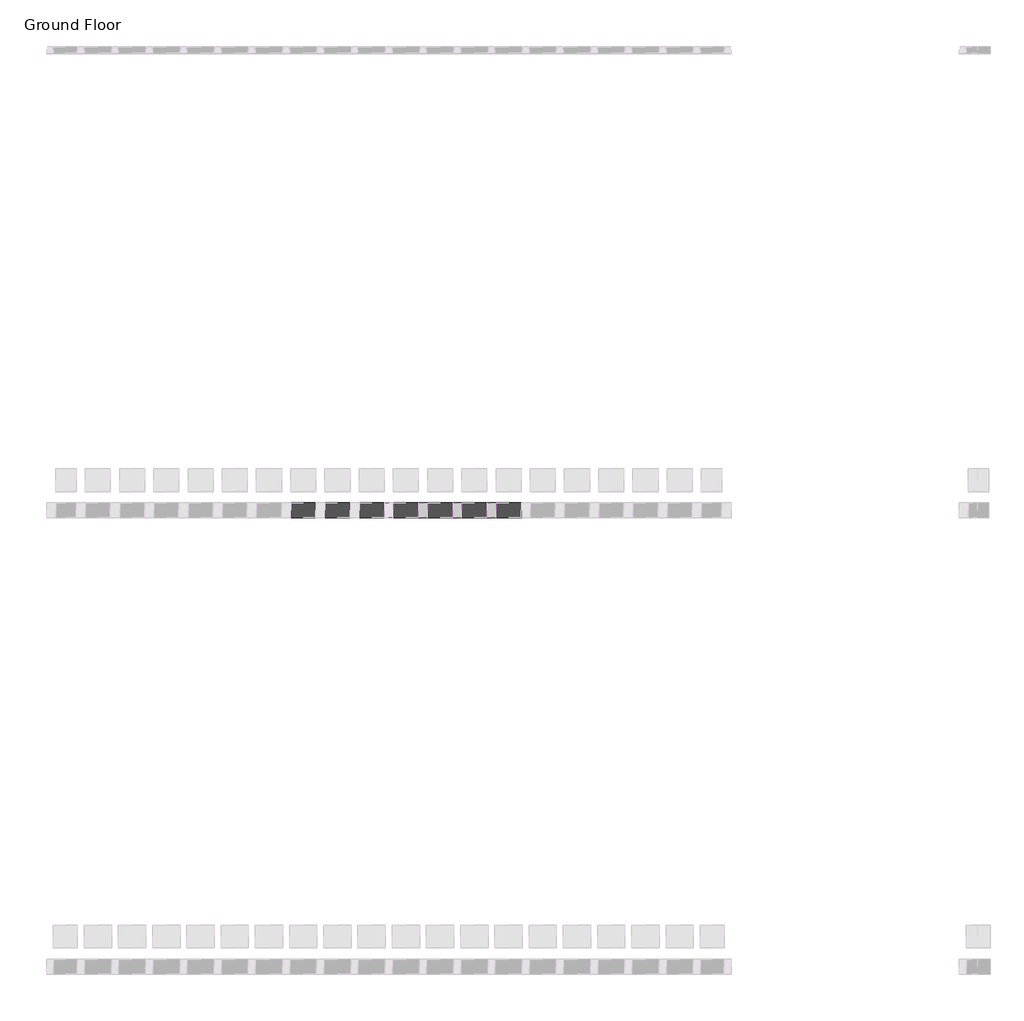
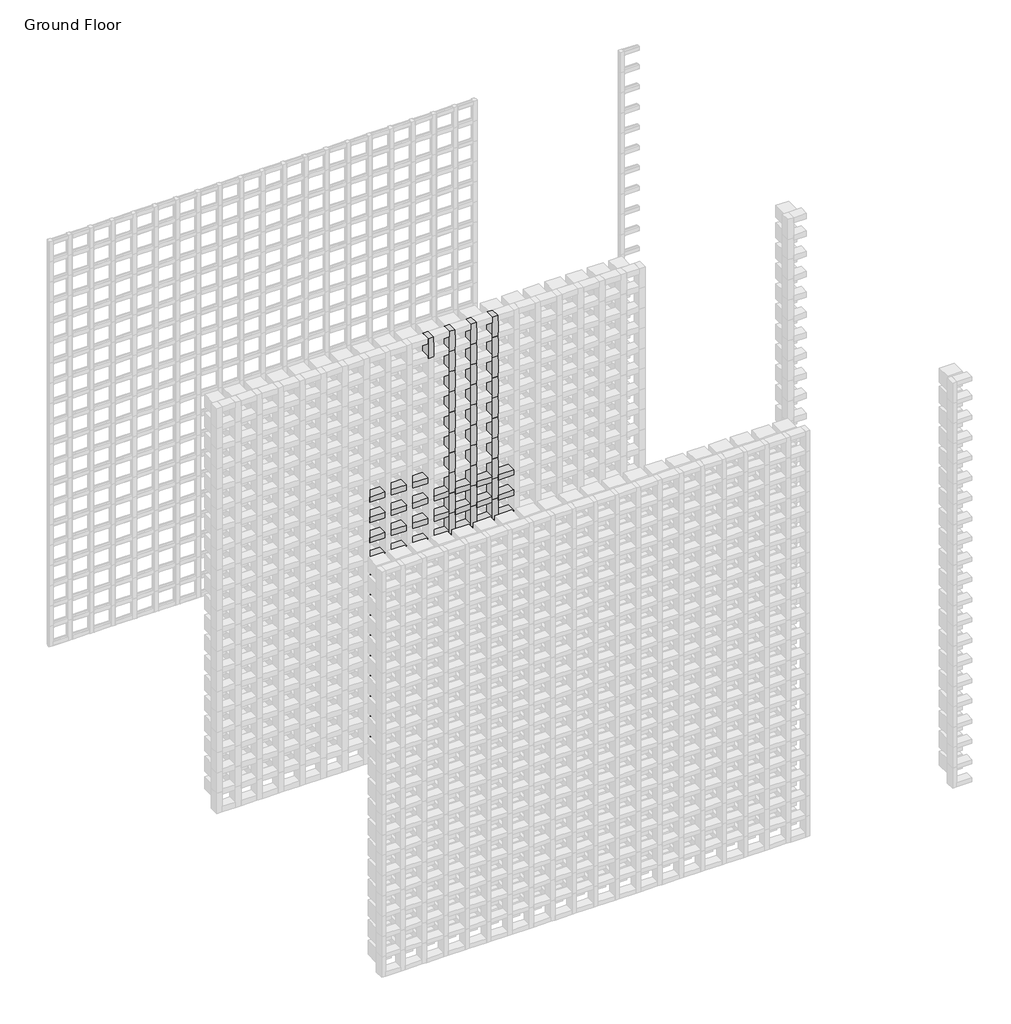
# One storey, part 131 of 350: 145 members.
"""IFC4 building model written with IfcOpenShell, lengths in millimetres."""

from ifc_helpers import new_model, si_unit, origin, place, context, project, spatial, transform, mapped, element, save
from components import rectangular_mullion_655930e9, rectangular_mullion_97e353d0

model = new_model("IFC4")

# Units and contexts
model_context = context("Model", 3, world=origin())
ifc_project = project(units=[si_unit("LENGTHUNIT", "METRE", prefix="MILLI")], contexts=[model_context])

# Site, building, storey
site = spatial("IfcSite", under=ifc_project)
building = spatial("IfcBuilding", under=site)
storey = spatial("IfcBuildingStorey", under=building, Name="Ground Floor", Elevation=0.0)

# Members
placement = place(None, origin())
rectangular_mullion_shape = rectangular_mullion_655930e9(model_context)
element("IfcMember", 1, ObjectType="Rectangular Mullion : Batten_Timber_Modinex_Austratus_Grid_Fascia_40x65_Hemlock", at=placement, inside=storey, context=model_context, shape_type="MappedRepresentation", body=[
    mapped(rectangular_mullion_shape, transform((11566.4361642, 40968.2978302, 150.0), x_axis=(1.0, 0.0, 0.0), y_axis=(0.0, -1.0, 0.0), z_axis=(0.0, 0.0, -1.0))),
])
element("IfcMember", 2, ObjectType="Rectangular Mullion : Batten_Timber_Modinex_Austratus_Grid_Fascia_40x65_Hemlock", at=placement, inside=storey, context=model_context, shape_type="MappedRepresentation", body=[
    mapped(rectangular_mullion_shape, transform((11566.4361642, 40968.2978302, 300.0), x_axis=(1.0, 0.0, 0.0), y_axis=(0.0, -1.0, 0.0), z_axis=(0.0, 0.0, -1.0))),
])
element("IfcMember", 3, ObjectType="Rectangular Mullion : Batten_Timber_Modinex_Austratus_Grid_Fascia_40x65_Hemlock", at=placement, inside=storey, context=model_context, shape_type="MappedRepresentation", body=[
    mapped(rectangular_mullion_shape, transform((11566.4361642, 40968.2978302, 450.0), x_axis=(1.0, 0.0, 0.0), y_axis=(0.0, -1.0, 0.0), z_axis=(0.0, 0.0, -1.0))),
])
element("IfcMember", 4, ObjectType="Rectangular Mullion : Batten_Timber_Modinex_Austratus_Grid_Fascia_40x65_Hemlock", at=placement, inside=storey, context=model_context, shape_type="MappedRepresentation", body=[
    mapped(rectangular_mullion_shape, transform((11566.4361642, 40968.2978302, 600.0), x_axis=(1.0, 0.0, 0.0), y_axis=(0.0, -1.0, 0.0), z_axis=(0.0, 0.0, -1.0))),
])
element("IfcMember", 5, ObjectType="Rectangular Mullion : Batten_Timber_Modinex_Austratus_Grid_Fascia_40x65_Hemlock", at=placement, inside=storey, context=model_context, shape_type="MappedRepresentation", body=[
    mapped(rectangular_mullion_shape, transform((11566.4361642, 40968.2978302, 750.0), x_axis=(1.0, 0.0, 0.0), y_axis=(0.0, -1.0, 0.0), z_axis=(0.0, 0.0, -1.0))),
])
element("IfcMember", 6, ObjectType="Rectangular Mullion : Batten_Timber_Modinex_Austratus_Grid_Fascia_40x65_Hemlock", at=placement, inside=storey, context=model_context, shape_type="MappedRepresentation", body=[
    mapped(rectangular_mullion_shape, transform((11566.4361642, 40968.2978302, 900.0), x_axis=(1.0, 0.0, 0.0), y_axis=(0.0, -1.0, 0.0), z_axis=(0.0, 0.0, -1.0))),
])
element("IfcMember", 7, ObjectType="Rectangular Mullion : Batten_Timber_Modinex_Austratus_Grid_Fascia_40x65_Hemlock", at=placement, inside=storey, context=model_context, shape_type="MappedRepresentation", body=[
    mapped(rectangular_mullion_shape, transform((11566.4361642, 40968.2978302, 1050.0), x_axis=(1.0, 0.0, 0.0), y_axis=(0.0, -1.0, 0.0), z_axis=(0.0, 0.0, -1.0))),
])
element("IfcMember", 8, ObjectType="Rectangular Mullion : Batten_Timber_Modinex_Austratus_Grid_Fascia_40x65_Hemlock", at=placement, inside=storey, context=model_context, shape_type="MappedRepresentation", body=[
    mapped(rectangular_mullion_shape, transform((11566.4361642, 40968.2978302, 1200.0), x_axis=(1.0, 0.0, 0.0), y_axis=(0.0, -1.0, 0.0), z_axis=(0.0, 0.0, -1.0))),
])
element("IfcMember", 9, ObjectType="Rectangular Mullion : Batten_Timber_Modinex_Austratus_Grid_Fascia_40x65_Hemlock", at=placement, inside=storey, context=model_context, shape_type="MappedRepresentation", body=[
    mapped(rectangular_mullion_shape, transform((11566.4361642, 40968.2978302, 1350.0), x_axis=(1.0, 0.0, 0.0), y_axis=(0.0, -1.0, 0.0), z_axis=(0.0, 0.0, -1.0))),
])
element("IfcMember", 10, ObjectType="Rectangular Mullion : Batten_Timber_Modinex_Austratus_Grid_Fascia_40x65_Hemlock", at=placement, inside=storey, context=model_context, shape_type="MappedRepresentation", body=[
    mapped(rectangular_mullion_shape, transform((11566.4361642, 40968.2978302, 1500.0), x_axis=(1.0, 0.0, 0.0), y_axis=(0.0, -1.0, 0.0), z_axis=(0.0, 0.0, -1.0))),
])
element("IfcMember", 11, ObjectType="Rectangular Mullion : Batten_Timber_Modinex_Austratus_Grid_Fascia_40x65_Hemlock", at=placement, inside=storey, context=model_context, shape_type="MappedRepresentation", body=[
    mapped(rectangular_mullion_shape, transform((11566.4361642, 40968.2978302, 1650.0), x_axis=(1.0, 0.0, 0.0), y_axis=(0.0, -1.0, 0.0), z_axis=(0.0, 0.0, -1.0))),
])
element("IfcMember", 12, ObjectType="Rectangular Mullion : Batten_Timber_Modinex_Austratus_Grid_Fascia_40x65_Hemlock", at=placement, inside=storey, context=model_context, shape_type="MappedRepresentation", body=[
    mapped(rectangular_mullion_shape, transform((11566.4361642, 40968.2978302, 1800.0), x_axis=(1.0, 0.0, 0.0), y_axis=(0.0, -1.0, 0.0), z_axis=(0.0, 0.0, -1.0))),
])
element("IfcMember", 13, ObjectType="Rectangular Mullion : Batten_Timber_Modinex_Austratus_Grid_Fascia_40x65_Hemlock", at=placement, inside=storey, context=model_context, shape_type="MappedRepresentation", body=[
    mapped(rectangular_mullion_shape, transform((11566.4361642, 40968.2978302, 1950.0), x_axis=(1.0, 0.0, 0.0), y_axis=(0.0, -1.0, 0.0), z_axis=(0.0, 0.0, -1.0))),
])
element("IfcMember", 14, ObjectType="Rectangular Mullion : Batten_Timber_Modinex_Austratus_Grid_Fascia_40x65_Hemlock", at=placement, inside=storey, context=model_context, shape_type="MappedRepresentation", body=[
    mapped(rectangular_mullion_shape, transform((11566.4361642, 40968.2978302, 2100.0), x_axis=(1.0, 0.0, 0.0), y_axis=(0.0, -1.0, 0.0), z_axis=(0.0, 0.0, -1.0))),
])
element("IfcMember", 15, ObjectType="Rectangular Mullion : Batten_Timber_Modinex_Austratus_Grid_Fascia_40x65_Hemlock", at=placement, inside=storey, context=model_context, shape_type="MappedRepresentation", body=[
    mapped(rectangular_mullion_shape, transform((11566.4361642, 40968.2978302, 2250.0), x_axis=(1.0, 0.0, 0.0), y_axis=(0.0, -1.0, 0.0), z_axis=(0.0, 0.0, -1.0))),
])
element("IfcMember", 16, ObjectType="Rectangular Mullion : Batten_Timber_Modinex_Austratus_Grid_Fascia_40x65_Hemlock", at=placement, inside=storey, context=model_context, shape_type="MappedRepresentation", body=[
    mapped(rectangular_mullion_shape, transform((11566.4361642, 40968.2978302, 2400.0), x_axis=(1.0, 0.0, 0.0), y_axis=(0.0, -1.0, 0.0), z_axis=(0.0, 0.0, -1.0))),
])
element("IfcMember", 17, ObjectType="Rectangular Mullion : Batten_Timber_Modinex_Austratus_Grid_Fascia_40x65_Hemlock", at=placement, inside=storey, context=model_context, shape_type="MappedRepresentation", body=[
    mapped(rectangular_mullion_shape, transform((11566.4361642, 40968.2978302, 2550.0), x_axis=(1.0, 0.0, 0.0), y_axis=(0.0, -1.0, 0.0), z_axis=(0.0, 0.0, -1.0))),
])
element("IfcMember", 18, ObjectType="Rectangular Mullion : Batten_Timber_Modinex_Austratus_Grid_Fascia_40x65_Hemlock", at=placement, inside=storey, context=model_context, shape_type="MappedRepresentation", body=[
    mapped(rectangular_mullion_shape, transform((11566.4361642, 40968.2978302, 2700.0), x_axis=(1.0, 0.0, 0.0), y_axis=(0.0, -1.0, 0.0), z_axis=(0.0, 0.0, -1.0))),
])
element("IfcMember", 19, ObjectType="Rectangular Mullion : Batten_Timber_Modinex_Austratus_Grid_Fascia_40x65_Hemlock", at=placement, inside=storey, context=model_context, shape_type="MappedRepresentation", body=[
    mapped(rectangular_mullion_shape, transform((11716.4361642, 40968.2978302, 150.0), x_axis=(1.0, 0.0, 0.0), y_axis=(0.0, -1.0, 0.0), z_axis=(0.0, 0.0, -1.0))),
])
element("IfcMember", 20, ObjectType="Rectangular Mullion : Batten_Timber_Modinex_Austratus_Grid_Fascia_40x65_Hemlock", at=placement, inside=storey, context=model_context, shape_type="MappedRepresentation", body=[
    mapped(rectangular_mullion_shape, transform((11716.4361642, 40968.2978302, 300.0), x_axis=(1.0, 0.0, 0.0), y_axis=(0.0, -1.0, 0.0), z_axis=(0.0, 0.0, -1.0))),
])
element("IfcMember", 21, ObjectType="Rectangular Mullion : Batten_Timber_Modinex_Austratus_Grid_Fascia_40x65_Hemlock", at=placement, inside=storey, context=model_context, shape_type="MappedRepresentation", body=[
    mapped(rectangular_mullion_shape, transform((11716.4361642, 40968.2978302, 450.0), x_axis=(1.0, 0.0, 0.0), y_axis=(0.0, -1.0, 0.0), z_axis=(0.0, 0.0, -1.0))),
])
element("IfcMember", 22, ObjectType="Rectangular Mullion : Batten_Timber_Modinex_Austratus_Grid_Fascia_40x65_Hemlock", at=placement, inside=storey, context=model_context, shape_type="MappedRepresentation", body=[
    mapped(rectangular_mullion_shape, transform((11716.4361642, 40968.2978302, 600.0), x_axis=(1.0, 0.0, 0.0), y_axis=(0.0, -1.0, 0.0), z_axis=(0.0, 0.0, -1.0))),
])
element("IfcMember", 23, ObjectType="Rectangular Mullion : Batten_Timber_Modinex_Austratus_Grid_Fascia_40x65_Hemlock", at=placement, inside=storey, context=model_context, shape_type="MappedRepresentation", body=[
    mapped(rectangular_mullion_shape, transform((11716.4361642, 40968.2978302, 750.0), x_axis=(1.0, 0.0, 0.0), y_axis=(0.0, -1.0, 0.0), z_axis=(0.0, 0.0, -1.0))),
])
element("IfcMember", 24, ObjectType="Rectangular Mullion : Batten_Timber_Modinex_Austratus_Grid_Fascia_40x65_Hemlock", at=placement, inside=storey, context=model_context, shape_type="MappedRepresentation", body=[
    mapped(rectangular_mullion_shape, transform((11716.4361642, 40968.2978302, 900.0), x_axis=(1.0, 0.0, 0.0), y_axis=(0.0, -1.0, 0.0), z_axis=(0.0, 0.0, -1.0))),
])
element("IfcMember", 25, ObjectType="Rectangular Mullion : Batten_Timber_Modinex_Austratus_Grid_Fascia_40x65_Hemlock", at=placement, inside=storey, context=model_context, shape_type="MappedRepresentation", body=[
    mapped(rectangular_mullion_shape, transform((11716.4361642, 40968.2978302, 1050.0), x_axis=(1.0, 0.0, 0.0), y_axis=(0.0, -1.0, 0.0), z_axis=(0.0, 0.0, -1.0))),
])
element("IfcMember", 26, ObjectType="Rectangular Mullion : Batten_Timber_Modinex_Austratus_Grid_Fascia_40x65_Hemlock", at=placement, inside=storey, context=model_context, shape_type="MappedRepresentation", body=[
    mapped(rectangular_mullion_shape, transform((11716.4361642, 40968.2978302, 1200.0), x_axis=(1.0, 0.0, 0.0), y_axis=(0.0, -1.0, 0.0), z_axis=(0.0, 0.0, -1.0))),
])
element("IfcMember", 27, ObjectType="Rectangular Mullion : Batten_Timber_Modinex_Austratus_Grid_Fascia_40x65_Hemlock", at=placement, inside=storey, context=model_context, shape_type="MappedRepresentation", body=[
    mapped(rectangular_mullion_shape, transform((11716.4361642, 40968.2978302, 1350.0), x_axis=(1.0, 0.0, 0.0), y_axis=(0.0, -1.0, 0.0), z_axis=(0.0, 0.0, -1.0))),
])
element("IfcMember", 28, ObjectType="Rectangular Mullion : Batten_Timber_Modinex_Austratus_Grid_Fascia_40x65_Hemlock", at=placement, inside=storey, context=model_context, shape_type="MappedRepresentation", body=[
    mapped(rectangular_mullion_shape, transform((11716.4361642, 40968.2978302, 1500.0), x_axis=(1.0, 0.0, 0.0), y_axis=(0.0, -1.0, 0.0), z_axis=(0.0, 0.0, -1.0))),
])
element("IfcMember", 29, ObjectType="Rectangular Mullion : Batten_Timber_Modinex_Austratus_Grid_Fascia_40x65_Hemlock", at=placement, inside=storey, context=model_context, shape_type="MappedRepresentation", body=[
    mapped(rectangular_mullion_shape, transform((11716.4361642, 40968.2978302, 1650.0), x_axis=(1.0, 0.0, 0.0), y_axis=(0.0, -1.0, 0.0), z_axis=(0.0, 0.0, -1.0))),
])
element("IfcMember", 30, ObjectType="Rectangular Mullion : Batten_Timber_Modinex_Austratus_Grid_Fascia_40x65_Hemlock", at=placement, inside=storey, context=model_context, shape_type="MappedRepresentation", body=[
    mapped(rectangular_mullion_shape, transform((11716.4361642, 40968.2978302, 1800.0), x_axis=(1.0, 0.0, 0.0), y_axis=(0.0, -1.0, 0.0), z_axis=(0.0, 0.0, -1.0))),
])
element("IfcMember", 31, ObjectType="Rectangular Mullion : Batten_Timber_Modinex_Austratus_Grid_Fascia_40x65_Hemlock", at=placement, inside=storey, context=model_context, shape_type="MappedRepresentation", body=[
    mapped(rectangular_mullion_shape, transform((11716.4361642, 40968.2978302, 1950.0), x_axis=(1.0, 0.0, 0.0), y_axis=(0.0, -1.0, 0.0), z_axis=(0.0, 0.0, -1.0))),
])
element("IfcMember", 32, ObjectType="Rectangular Mullion : Batten_Timber_Modinex_Austratus_Grid_Fascia_40x65_Hemlock", at=placement, inside=storey, context=model_context, shape_type="MappedRepresentation", body=[
    mapped(rectangular_mullion_shape, transform((11716.4361642, 40968.2978302, 2100.0), x_axis=(1.0, 0.0, 0.0), y_axis=(0.0, -1.0, 0.0), z_axis=(0.0, 0.0, -1.0))),
])
element("IfcMember", 33, ObjectType="Rectangular Mullion : Batten_Timber_Modinex_Austratus_Grid_Fascia_40x65_Hemlock", at=placement, inside=storey, context=model_context, shape_type="MappedRepresentation", body=[
    mapped(rectangular_mullion_shape, transform((11716.4361642, 40968.2978302, 2250.0), x_axis=(1.0, 0.0, 0.0), y_axis=(0.0, -1.0, 0.0), z_axis=(0.0, 0.0, -1.0))),
])
element("IfcMember", 34, ObjectType="Rectangular Mullion : Batten_Timber_Modinex_Austratus_Grid_Fascia_40x65_Hemlock", at=placement, inside=storey, context=model_context, shape_type="MappedRepresentation", body=[
    mapped(rectangular_mullion_shape, transform((11716.4361642, 40968.2978302, 2400.0), x_axis=(1.0, 0.0, 0.0), y_axis=(0.0, -1.0, 0.0), z_axis=(0.0, 0.0, -1.0))),
])
element("IfcMember", 35, ObjectType="Rectangular Mullion : Batten_Timber_Modinex_Austratus_Grid_Fascia_40x65_Hemlock", at=placement, inside=storey, context=model_context, shape_type="MappedRepresentation", body=[
    mapped(rectangular_mullion_shape, transform((11716.4361642, 40968.2978302, 2550.0), x_axis=(1.0, 0.0, 0.0), y_axis=(0.0, -1.0, 0.0), z_axis=(0.0, 0.0, -1.0))),
])
element("IfcMember", 36, ObjectType="Rectangular Mullion : Batten_Timber_Modinex_Austratus_Grid_Fascia_40x65_Hemlock", at=placement, inside=storey, context=model_context, shape_type="MappedRepresentation", body=[
    mapped(rectangular_mullion_shape, transform((11716.4361642, 40968.2978302, 2700.0), x_axis=(1.0, 0.0, 0.0), y_axis=(0.0, -1.0, 0.0), z_axis=(0.0, 0.0, -1.0))),
])
element("IfcMember", 37, ObjectType="Rectangular Mullion : Batten_Timber_Modinex_Austratus_Grid_Fascia_40x65_Hemlock", at=placement, inside=storey, context=model_context, shape_type="MappedRepresentation", body=[
    mapped(rectangular_mullion_shape, transform((11866.4361642, 40968.2978302, 150.0), x_axis=(1.0, 0.0, 0.0), y_axis=(0.0, -1.0, 0.0), z_axis=(0.0, 0.0, -1.0))),
])
element("IfcMember", 38, ObjectType="Rectangular Mullion : Batten_Timber_Modinex_Austratus_Grid_Fascia_40x65_Hemlock", at=placement, inside=storey, context=model_context, shape_type="MappedRepresentation", body=[
    mapped(rectangular_mullion_shape, transform((11866.4361642, 40968.2978302, 300.0), x_axis=(1.0, 0.0, 0.0), y_axis=(0.0, -1.0, 0.0), z_axis=(0.0, 0.0, -1.0))),
])
element("IfcMember", 39, ObjectType="Rectangular Mullion : Batten_Timber_Modinex_Austratus_Grid_Fascia_40x65_Hemlock", at=placement, inside=storey, context=model_context, shape_type="MappedRepresentation", body=[
    mapped(rectangular_mullion_shape, transform((11866.4361642, 40968.2978302, 450.0), x_axis=(1.0, 0.0, 0.0), y_axis=(0.0, -1.0, 0.0), z_axis=(0.0, 0.0, -1.0))),
])
element("IfcMember", 40, ObjectType="Rectangular Mullion : Batten_Timber_Modinex_Austratus_Grid_Fascia_40x65_Hemlock", at=placement, inside=storey, context=model_context, shape_type="MappedRepresentation", body=[
    mapped(rectangular_mullion_shape, transform((11866.4361642, 40968.2978302, 600.0), x_axis=(1.0, 0.0, 0.0), y_axis=(0.0, -1.0, 0.0), z_axis=(0.0, 0.0, -1.0))),
])
element("IfcMember", 41, ObjectType="Rectangular Mullion : Batten_Timber_Modinex_Austratus_Grid_Fascia_40x65_Hemlock", at=placement, inside=storey, context=model_context, shape_type="MappedRepresentation", body=[
    mapped(rectangular_mullion_shape, transform((11866.4361642, 40968.2978302, 750.0), x_axis=(1.0, 0.0, 0.0), y_axis=(0.0, -1.0, 0.0), z_axis=(0.0, 0.0, -1.0))),
])
element("IfcMember", 42, ObjectType="Rectangular Mullion : Batten_Timber_Modinex_Austratus_Grid_Fascia_40x65_Hemlock", at=placement, inside=storey, context=model_context, shape_type="MappedRepresentation", body=[
    mapped(rectangular_mullion_shape, transform((11866.4361642, 40968.2978302, 900.0), x_axis=(1.0, 0.0, 0.0), y_axis=(0.0, -1.0, 0.0), z_axis=(0.0, 0.0, -1.0))),
])
element("IfcMember", 43, ObjectType="Rectangular Mullion : Batten_Timber_Modinex_Austratus_Grid_Fascia_40x65_Hemlock", at=placement, inside=storey, context=model_context, shape_type="MappedRepresentation", body=[
    mapped(rectangular_mullion_shape, transform((11866.4361642, 40968.2978302, 1050.0), x_axis=(1.0, 0.0, 0.0), y_axis=(0.0, -1.0, 0.0), z_axis=(0.0, 0.0, -1.0))),
])
element("IfcMember", 44, ObjectType="Rectangular Mullion : Batten_Timber_Modinex_Austratus_Grid_Fascia_40x65_Hemlock", at=placement, inside=storey, context=model_context, shape_type="MappedRepresentation", body=[
    mapped(rectangular_mullion_shape, transform((11866.4361642, 40968.2978302, 1200.0), x_axis=(1.0, 0.0, 0.0), y_axis=(0.0, -1.0, 0.0), z_axis=(0.0, 0.0, -1.0))),
])
element("IfcMember", 45, ObjectType="Rectangular Mullion : Batten_Timber_Modinex_Austratus_Grid_Fascia_40x65_Hemlock", at=placement, inside=storey, context=model_context, shape_type="MappedRepresentation", body=[
    mapped(rectangular_mullion_shape, transform((11866.4361642, 40968.2978302, 1350.0), x_axis=(1.0, 0.0, 0.0), y_axis=(0.0, -1.0, 0.0), z_axis=(0.0, 0.0, -1.0))),
])
element("IfcMember", 46, ObjectType="Rectangular Mullion : Batten_Timber_Modinex_Austratus_Grid_Fascia_40x65_Hemlock", at=placement, inside=storey, context=model_context, shape_type="MappedRepresentation", body=[
    mapped(rectangular_mullion_shape, transform((11866.4361642, 40968.2978302, 1500.0), x_axis=(1.0, 0.0, 0.0), y_axis=(0.0, -1.0, 0.0), z_axis=(0.0, 0.0, -1.0))),
])
element("IfcMember", 47, ObjectType="Rectangular Mullion : Batten_Timber_Modinex_Austratus_Grid_Fascia_40x65_Hemlock", at=placement, inside=storey, context=model_context, shape_type="MappedRepresentation", body=[
    mapped(rectangular_mullion_shape, transform((11866.4361642, 40968.2978302, 1650.0), x_axis=(1.0, 0.0, 0.0), y_axis=(0.0, -1.0, 0.0), z_axis=(0.0, 0.0, -1.0))),
])
element("IfcMember", 48, ObjectType="Rectangular Mullion : Batten_Timber_Modinex_Austratus_Grid_Fascia_40x65_Hemlock", at=placement, inside=storey, context=model_context, shape_type="MappedRepresentation", body=[
    mapped(rectangular_mullion_shape, transform((11866.4361642, 40968.2978302, 1800.0), x_axis=(1.0, 0.0, 0.0), y_axis=(0.0, -1.0, 0.0), z_axis=(0.0, 0.0, -1.0))),
])
element("IfcMember", 49, ObjectType="Rectangular Mullion : Batten_Timber_Modinex_Austratus_Grid_Fascia_40x65_Hemlock", at=placement, inside=storey, context=model_context, shape_type="MappedRepresentation", body=[
    mapped(rectangular_mullion_shape, transform((11866.4361642, 40968.2978302, 1950.0), x_axis=(1.0, 0.0, 0.0), y_axis=(0.0, -1.0, 0.0), z_axis=(0.0, 0.0, -1.0))),
])
element("IfcMember", 50, ObjectType="Rectangular Mullion : Batten_Timber_Modinex_Austratus_Grid_Fascia_40x65_Hemlock", at=placement, inside=storey, context=model_context, shape_type="MappedRepresentation", body=[
    mapped(rectangular_mullion_shape, transform((11866.4361642, 40968.2978302, 2100.0), x_axis=(1.0, 0.0, 0.0), y_axis=(0.0, -1.0, 0.0), z_axis=(0.0, 0.0, -1.0))),
])
element("IfcMember", 51, ObjectType="Rectangular Mullion : Batten_Timber_Modinex_Austratus_Grid_Fascia_40x65_Hemlock", at=placement, inside=storey, context=model_context, shape_type="MappedRepresentation", body=[
    mapped(rectangular_mullion_shape, transform((11866.4361642, 40968.2978302, 2250.0), x_axis=(1.0, 0.0, 0.0), y_axis=(0.0, -1.0, 0.0), z_axis=(0.0, 0.0, -1.0))),
])
element("IfcMember", 52, ObjectType="Rectangular Mullion : Batten_Timber_Modinex_Austratus_Grid_Fascia_40x65_Hemlock", at=placement, inside=storey, context=model_context, shape_type="MappedRepresentation", body=[
    mapped(rectangular_mullion_shape, transform((11866.4361642, 40968.2978302, 2400.0), x_axis=(1.0, 0.0, 0.0), y_axis=(0.0, -1.0, 0.0), z_axis=(0.0, 0.0, -1.0))),
])
element("IfcMember", 53, ObjectType="Rectangular Mullion : Batten_Timber_Modinex_Austratus_Grid_Fascia_40x65_Hemlock", at=placement, inside=storey, context=model_context, shape_type="MappedRepresentation", body=[
    mapped(rectangular_mullion_shape, transform((11866.4361642, 40968.2978302, 2550.0), x_axis=(1.0, 0.0, 0.0), y_axis=(0.0, -1.0, 0.0), z_axis=(0.0, 0.0, -1.0))),
])
element("IfcMember", 54, ObjectType="Rectangular Mullion : Batten_Timber_Modinex_Austratus_Grid_Fascia_40x65_Hemlock", at=placement, inside=storey, context=model_context, shape_type="MappedRepresentation", body=[
    mapped(rectangular_mullion_shape, transform((11866.4361642, 40968.2978302, 2700.0), x_axis=(1.0, 0.0, 0.0), y_axis=(0.0, -1.0, 0.0), z_axis=(0.0, 0.0, -1.0))),
])
element("IfcMember", 55, ObjectType="Rectangular Mullion : Batten_Timber_Modinex_Austratus_Grid_Fascia_40x65_Hemlock", at=placement, inside=storey, context=model_context, shape_type="MappedRepresentation", body=[
    mapped(rectangular_mullion_shape, transform((11416.4361642, 40968.2978302, 2850.0), x_axis=(1.0, 0.0, 0.0), y_axis=(0.0, -1.0, 0.0), z_axis=(0.0, 0.0, -1.0))),
])
element("IfcMember", 56, ObjectType="Rectangular Mullion : Batten_Timber_Modinex_Austratus_Grid_Fascia_40x65_Hemlock", at=placement, inside=storey, context=model_context, shape_type="MappedRepresentation", body=[
    mapped(rectangular_mullion_shape, transform((11566.4361642, 40968.2978302, 2850.0), x_axis=(1.0, 0.0, 0.0), y_axis=(0.0, -1.0, 0.0), z_axis=(0.0, 0.0, -1.0))),
])
element("IfcMember", 57, ObjectType="Rectangular Mullion : Batten_Timber_Modinex_Austratus_Grid_Fascia_40x65_Hemlock", at=placement, inside=storey, context=model_context, shape_type="MappedRepresentation", body=[
    mapped(rectangular_mullion_shape, transform((11716.4361642, 40968.2978302, 2850.0), x_axis=(1.0, 0.0, 0.0), y_axis=(0.0, -1.0, 0.0), z_axis=(0.0, 0.0, -1.0))),
])
element("IfcMember", 58, ObjectType="Rectangular Mullion : Batten_Timber_Modinex_Austratus_Grid_Fascia_40x65_Hemlock", at=placement, inside=storey, context=model_context, shape_type="MappedRepresentation", body=[
    mapped(rectangular_mullion_shape, transform((11866.4361642, 40968.2978302, 2850.0), x_axis=(1.0, 0.0, 0.0), y_axis=(0.0, -1.0, 0.0), z_axis=(0.0, 0.0, -1.0))),
])
rectangular_mullion_2_shape = rectangular_mullion_97e353d0(model_context)
element("IfcMember", 59, ObjectType="Rectangular Mullion : Batten_Timber_Modinex_Austratus_Grid_Fascia_40x65_Hemlock", at=placement, inside=storey, context=model_context, shape_type="MappedRepresentation", body=[
    mapped(rectangular_mullion_2_shape, transform((11096.4361642, 40968.2978302, 150.0), x_axis=(0.0, 0.0, 1.0), y_axis=(0.0, -1.0, 0.0), z_axis=(1.0, 0.0, 0.0))),
])
element("IfcMember", 60, ObjectType="Rectangular Mullion : Batten_Timber_Modinex_Austratus_Grid_Fascia_40x65_Hemlock", at=placement, inside=storey, context=model_context, shape_type="MappedRepresentation", body=[
    mapped(rectangular_mullion_2_shape, transform((11246.4361642, 40968.2978302, 150.0), x_axis=(0.0, 0.0, 1.0), y_axis=(0.0, -1.0, 0.0), z_axis=(1.0, 0.0, 0.0))),
])
element("IfcMember", 61, ObjectType="Rectangular Mullion : Batten_Timber_Modinex_Austratus_Grid_Fascia_40x65_Hemlock", at=placement, inside=storey, context=model_context, shape_type="MappedRepresentation", body=[
    mapped(rectangular_mullion_2_shape, transform((11396.4361642, 40968.2978302, 150.0), x_axis=(0.0, 0.0, 1.0), y_axis=(0.0, -1.0, 0.0), z_axis=(1.0, 0.0, 0.0))),
])
element("IfcMember", 62, ObjectType="Rectangular Mullion : Batten_Timber_Modinex_Austratus_Grid_Fascia_40x65_Hemlock", at=placement, inside=storey, context=model_context, shape_type="MappedRepresentation", body=[
    mapped(rectangular_mullion_2_shape, transform((11546.4361642, 40968.2978302, 150.0), x_axis=(0.0, 0.0, 1.0), y_axis=(0.0, -1.0, 0.0), z_axis=(1.0, 0.0, 0.0))),
])
element("IfcMember", 63, ObjectType="Rectangular Mullion : Batten_Timber_Modinex_Austratus_Grid_Fascia_40x65_Hemlock", at=placement, inside=storey, context=model_context, shape_type="MappedRepresentation", body=[
    mapped(rectangular_mullion_2_shape, transform((11696.4361642, 40968.2978302, 150.0), x_axis=(0.0, 0.0, 1.0), y_axis=(0.0, -1.0, 0.0), z_axis=(1.0, 0.0, 0.0))),
])
element("IfcMember", 64, ObjectType="Rectangular Mullion : Batten_Timber_Modinex_Austratus_Grid_Fascia_40x65_Hemlock", at=placement, inside=storey, context=model_context, shape_type="MappedRepresentation", body=[
    mapped(rectangular_mullion_2_shape, transform((11846.4361642, 40968.2978302, 150.0), x_axis=(0.0, 0.0, 1.0), y_axis=(0.0, -1.0, 0.0), z_axis=(1.0, 0.0, 0.0))),
])
element("IfcMember", 65, ObjectType="Rectangular Mullion : Batten_Timber_Modinex_Austratus_Grid_Fascia_40x65_Hemlock", at=placement, inside=storey, context=model_context, shape_type="MappedRepresentation", body=[
    mapped(rectangular_mullion_2_shape, transform((11996.4361642, 40968.2978302, 150.0), x_axis=(0.0, 0.0, 1.0), y_axis=(0.0, -1.0, 0.0), z_axis=(1.0, 0.0, 0.0))),
])
element("IfcMember", 66, ObjectType="Rectangular Mullion : Batten_Timber_Modinex_Austratus_Grid_Fascia_40x65_Hemlock", at=placement, inside=storey, context=model_context, shape_type="MappedRepresentation", body=[
    mapped(rectangular_mullion_2_shape, transform((11096.4361642, 40968.2978302, 300.0), x_axis=(0.0, 0.0, 1.0), y_axis=(0.0, -1.0, 0.0), z_axis=(1.0, 0.0, 0.0))),
])
element("IfcMember", 67, ObjectType="Rectangular Mullion : Batten_Timber_Modinex_Austratus_Grid_Fascia_40x65_Hemlock", at=placement, inside=storey, context=model_context, shape_type="MappedRepresentation", body=[
    mapped(rectangular_mullion_2_shape, transform((11246.4361642, 40968.2978302, 300.0), x_axis=(0.0, 0.0, 1.0), y_axis=(0.0, -1.0, 0.0), z_axis=(1.0, 0.0, 0.0))),
])
element("IfcMember", 68, ObjectType="Rectangular Mullion : Batten_Timber_Modinex_Austratus_Grid_Fascia_40x65_Hemlock", at=placement, inside=storey, context=model_context, shape_type="MappedRepresentation", body=[
    mapped(rectangular_mullion_2_shape, transform((11396.4361642, 40968.2978302, 300.0), x_axis=(0.0, 0.0, 1.0), y_axis=(0.0, -1.0, 0.0), z_axis=(1.0, 0.0, 0.0))),
])
element("IfcMember", 69, ObjectType="Rectangular Mullion : Batten_Timber_Modinex_Austratus_Grid_Fascia_40x65_Hemlock", at=placement, inside=storey, context=model_context, shape_type="MappedRepresentation", body=[
    mapped(rectangular_mullion_2_shape, transform((11546.4361642, 40968.2978302, 300.0), x_axis=(0.0, 0.0, 1.0), y_axis=(0.0, -1.0, 0.0), z_axis=(1.0, 0.0, 0.0))),
])
element("IfcMember", 70, ObjectType="Rectangular Mullion : Batten_Timber_Modinex_Austratus_Grid_Fascia_40x65_Hemlock", at=placement, inside=storey, context=model_context, shape_type="MappedRepresentation", body=[
    mapped(rectangular_mullion_2_shape, transform((11696.4361642, 40968.2978302, 300.0), x_axis=(0.0, 0.0, 1.0), y_axis=(0.0, -1.0, 0.0), z_axis=(1.0, 0.0, 0.0))),
])
element("IfcMember", 71, ObjectType="Rectangular Mullion : Batten_Timber_Modinex_Austratus_Grid_Fascia_40x65_Hemlock", at=placement, inside=storey, context=model_context, shape_type="MappedRepresentation", body=[
    mapped(rectangular_mullion_2_shape, transform((11846.4361642, 40968.2978302, 300.0), x_axis=(0.0, 0.0, 1.0), y_axis=(0.0, -1.0, 0.0), z_axis=(1.0, 0.0, 0.0))),
])
element("IfcMember", 72, ObjectType="Rectangular Mullion : Batten_Timber_Modinex_Austratus_Grid_Fascia_40x65_Hemlock", at=placement, inside=storey, context=model_context, shape_type="MappedRepresentation", body=[
    mapped(rectangular_mullion_2_shape, transform((11996.4361642, 40968.2978302, 300.0), x_axis=(0.0, 0.0, 1.0), y_axis=(0.0, -1.0, 0.0), z_axis=(1.0, 0.0, 0.0))),
])
element("IfcMember", 73, ObjectType="Rectangular Mullion : Batten_Timber_Modinex_Austratus_Grid_Fascia_40x65_Hemlock", at=placement, inside=storey, context=model_context, shape_type="MappedRepresentation", body=[
    mapped(rectangular_mullion_2_shape, transform((11096.4361642, 40968.2978302, 450.0), x_axis=(0.0, 0.0, 1.0), y_axis=(0.0, -1.0, 0.0), z_axis=(1.0, 0.0, 0.0))),
])
element("IfcMember", 74, ObjectType="Rectangular Mullion : Batten_Timber_Modinex_Austratus_Grid_Fascia_40x65_Hemlock", at=placement, inside=storey, context=model_context, shape_type="MappedRepresentation", body=[
    mapped(rectangular_mullion_2_shape, transform((11246.4361642, 40968.2978302, 450.0), x_axis=(0.0, 0.0, 1.0), y_axis=(0.0, -1.0, 0.0), z_axis=(1.0, 0.0, 0.0))),
])
element("IfcMember", 75, ObjectType="Rectangular Mullion : Batten_Timber_Modinex_Austratus_Grid_Fascia_40x65_Hemlock", at=placement, inside=storey, context=model_context, shape_type="MappedRepresentation", body=[
    mapped(rectangular_mullion_2_shape, transform((11396.4361642, 40968.2978302, 450.0), x_axis=(0.0, 0.0, 1.0), y_axis=(0.0, -1.0, 0.0), z_axis=(1.0, 0.0, 0.0))),
])
element("IfcMember", 76, ObjectType="Rectangular Mullion : Batten_Timber_Modinex_Austratus_Grid_Fascia_40x65_Hemlock", at=placement, inside=storey, context=model_context, shape_type="MappedRepresentation", body=[
    mapped(rectangular_mullion_2_shape, transform((11546.4361642, 40968.2978302, 450.0), x_axis=(0.0, 0.0, 1.0), y_axis=(0.0, -1.0, 0.0), z_axis=(1.0, 0.0, 0.0))),
])
element("IfcMember", 77, ObjectType="Rectangular Mullion : Batten_Timber_Modinex_Austratus_Grid_Fascia_40x65_Hemlock", at=placement, inside=storey, context=model_context, shape_type="MappedRepresentation", body=[
    mapped(rectangular_mullion_2_shape, transform((11696.4361642, 40968.2978302, 450.0), x_axis=(0.0, 0.0, 1.0), y_axis=(0.0, -1.0, 0.0), z_axis=(1.0, 0.0, 0.0))),
])
element("IfcMember", 78, ObjectType="Rectangular Mullion : Batten_Timber_Modinex_Austratus_Grid_Fascia_40x65_Hemlock", at=placement, inside=storey, context=model_context, shape_type="MappedRepresentation", body=[
    mapped(rectangular_mullion_2_shape, transform((11846.4361642, 40968.2978302, 450.0), x_axis=(0.0, 0.0, 1.0), y_axis=(0.0, -1.0, 0.0), z_axis=(1.0, 0.0, 0.0))),
])
element("IfcMember", 79, ObjectType="Rectangular Mullion : Batten_Timber_Modinex_Austratus_Grid_Fascia_40x65_Hemlock", at=placement, inside=storey, context=model_context, shape_type="MappedRepresentation", body=[
    mapped(rectangular_mullion_2_shape, transform((11996.4361642, 40968.2978302, 450.0), x_axis=(0.0, 0.0, 1.0), y_axis=(0.0, -1.0, 0.0), z_axis=(1.0, 0.0, 0.0))),
])
element("IfcMember", 80, ObjectType="Rectangular Mullion : Batten_Timber_Modinex_Austratus_Grid_Fascia_40x65_Hemlock", at=placement, inside=storey, context=model_context, shape_type="MappedRepresentation", body=[
    mapped(rectangular_mullion_2_shape, transform((11096.4361642, 40968.2978302, 600.0), x_axis=(0.0, 0.0, 1.0), y_axis=(0.0, -1.0, 0.0), z_axis=(1.0, 0.0, 0.0))),
])
element("IfcMember", 81, ObjectType="Rectangular Mullion : Batten_Timber_Modinex_Austratus_Grid_Fascia_40x65_Hemlock", at=placement, inside=storey, context=model_context, shape_type="MappedRepresentation", body=[
    mapped(rectangular_mullion_2_shape, transform((11246.4361642, 40968.2978302, 600.0), x_axis=(0.0, 0.0, 1.0), y_axis=(0.0, -1.0, 0.0), z_axis=(1.0, 0.0, 0.0))),
])
element("IfcMember", 82, ObjectType="Rectangular Mullion : Batten_Timber_Modinex_Austratus_Grid_Fascia_40x65_Hemlock", at=placement, inside=storey, context=model_context, shape_type="MappedRepresentation", body=[
    mapped(rectangular_mullion_2_shape, transform((11396.4361642, 40968.2978302, 600.0), x_axis=(0.0, 0.0, 1.0), y_axis=(0.0, -1.0, 0.0), z_axis=(1.0, 0.0, 0.0))),
])
element("IfcMember", 83, ObjectType="Rectangular Mullion : Batten_Timber_Modinex_Austratus_Grid_Fascia_40x65_Hemlock", at=placement, inside=storey, context=model_context, shape_type="MappedRepresentation", body=[
    mapped(rectangular_mullion_2_shape, transform((11546.4361642, 40968.2978302, 600.0), x_axis=(0.0, 0.0, 1.0), y_axis=(0.0, -1.0, 0.0), z_axis=(1.0, 0.0, 0.0))),
])
element("IfcMember", 84, ObjectType="Rectangular Mullion : Batten_Timber_Modinex_Austratus_Grid_Fascia_40x65_Hemlock", at=placement, inside=storey, context=model_context, shape_type="MappedRepresentation", body=[
    mapped(rectangular_mullion_2_shape, transform((11696.4361642, 40968.2978302, 600.0), x_axis=(0.0, 0.0, 1.0), y_axis=(0.0, -1.0, 0.0), z_axis=(1.0, 0.0, 0.0))),
])
element("IfcMember", 85, ObjectType="Rectangular Mullion : Batten_Timber_Modinex_Austratus_Grid_Fascia_40x65_Hemlock", at=placement, inside=storey, context=model_context, shape_type="MappedRepresentation", body=[
    mapped(rectangular_mullion_2_shape, transform((11846.4361642, 40968.2978302, 600.0), x_axis=(0.0, 0.0, 1.0), y_axis=(0.0, -1.0, 0.0), z_axis=(1.0, 0.0, 0.0))),
])
element("IfcMember", 86, ObjectType="Rectangular Mullion : Batten_Timber_Modinex_Austratus_Grid_Fascia_40x65_Hemlock", at=placement, inside=storey, context=model_context, shape_type="MappedRepresentation", body=[
    mapped(rectangular_mullion_2_shape, transform((11996.4361642, 40968.2978302, 600.0), x_axis=(0.0, 0.0, 1.0), y_axis=(0.0, -1.0, 0.0), z_axis=(1.0, 0.0, 0.0))),
])
element("IfcMember", 87, ObjectType="Rectangular Mullion : Batten_Timber_Modinex_Austratus_Grid_Fascia_40x65_Hemlock", at=placement, inside=storey, context=model_context, shape_type="MappedRepresentation", body=[
    mapped(rectangular_mullion_2_shape, transform((11096.4361642, 40968.2978302, 750.0), x_axis=(0.0, 0.0, 1.0), y_axis=(0.0, -1.0, 0.0), z_axis=(1.0, 0.0, 0.0))),
])
element("IfcMember", 88, ObjectType="Rectangular Mullion : Batten_Timber_Modinex_Austratus_Grid_Fascia_40x65_Hemlock", at=placement, inside=storey, context=model_context, shape_type="MappedRepresentation", body=[
    mapped(rectangular_mullion_2_shape, transform((11246.4361642, 40968.2978302, 750.0), x_axis=(0.0, 0.0, 1.0), y_axis=(0.0, -1.0, 0.0), z_axis=(1.0, 0.0, 0.0))),
])
element("IfcMember", 89, ObjectType="Rectangular Mullion : Batten_Timber_Modinex_Austratus_Grid_Fascia_40x65_Hemlock", at=placement, inside=storey, context=model_context, shape_type="MappedRepresentation", body=[
    mapped(rectangular_mullion_2_shape, transform((11396.4361642, 40968.2978302, 750.0), x_axis=(0.0, 0.0, 1.0), y_axis=(0.0, -1.0, 0.0), z_axis=(1.0, 0.0, 0.0))),
])
element("IfcMember", 90, ObjectType="Rectangular Mullion : Batten_Timber_Modinex_Austratus_Grid_Fascia_40x65_Hemlock", at=placement, inside=storey, context=model_context, shape_type="MappedRepresentation", body=[
    mapped(rectangular_mullion_2_shape, transform((11546.4361642, 40968.2978302, 750.0), x_axis=(0.0, 0.0, 1.0), y_axis=(0.0, -1.0, 0.0), z_axis=(1.0, 0.0, 0.0))),
])
element("IfcMember", 91, ObjectType="Rectangular Mullion : Batten_Timber_Modinex_Austratus_Grid_Fascia_40x65_Hemlock", at=placement, inside=storey, context=model_context, shape_type="MappedRepresentation", body=[
    mapped(rectangular_mullion_2_shape, transform((11696.4361642, 40968.2978302, 750.0), x_axis=(0.0, 0.0, 1.0), y_axis=(0.0, -1.0, 0.0), z_axis=(1.0, 0.0, 0.0))),
])
element("IfcMember", 92, ObjectType="Rectangular Mullion : Batten_Timber_Modinex_Austratus_Grid_Fascia_40x65_Hemlock", at=placement, inside=storey, context=model_context, shape_type="MappedRepresentation", body=[
    mapped(rectangular_mullion_2_shape, transform((11846.4361642, 40968.2978302, 750.0), x_axis=(0.0, 0.0, 1.0), y_axis=(0.0, -1.0, 0.0), z_axis=(1.0, 0.0, 0.0))),
])
element("IfcMember", 93, ObjectType="Rectangular Mullion : Batten_Timber_Modinex_Austratus_Grid_Fascia_40x65_Hemlock", at=placement, inside=storey, context=model_context, shape_type="MappedRepresentation", body=[
    mapped(rectangular_mullion_2_shape, transform((11996.4361642, 40968.2978302, 750.0), x_axis=(0.0, 0.0, 1.0), y_axis=(0.0, -1.0, 0.0), z_axis=(1.0, 0.0, 0.0))),
])
element("IfcMember", 94, ObjectType="Rectangular Mullion : Batten_Timber_Modinex_Austratus_Grid_Fascia_40x65_Hemlock", at=placement, inside=storey, context=model_context, shape_type="MappedRepresentation", body=[
    mapped(rectangular_mullion_2_shape, transform((11096.4361642, 40968.2978302, 900.0), x_axis=(0.0, 0.0, 1.0), y_axis=(0.0, -1.0, 0.0), z_axis=(1.0, 0.0, 0.0))),
])
element("IfcMember", 95, ObjectType="Rectangular Mullion : Batten_Timber_Modinex_Austratus_Grid_Fascia_40x65_Hemlock", at=placement, inside=storey, context=model_context, shape_type="MappedRepresentation", body=[
    mapped(rectangular_mullion_2_shape, transform((11246.4361642, 40968.2978302, 900.0), x_axis=(0.0, 0.0, 1.0), y_axis=(0.0, -1.0, 0.0), z_axis=(1.0, 0.0, 0.0))),
])
element("IfcMember", 96, ObjectType="Rectangular Mullion : Batten_Timber_Modinex_Austratus_Grid_Fascia_40x65_Hemlock", at=placement, inside=storey, context=model_context, shape_type="MappedRepresentation", body=[
    mapped(rectangular_mullion_2_shape, transform((11396.4361642, 40968.2978302, 900.0), x_axis=(0.0, 0.0, 1.0), y_axis=(0.0, -1.0, 0.0), z_axis=(1.0, 0.0, 0.0))),
])
element("IfcMember", 97, ObjectType="Rectangular Mullion : Batten_Timber_Modinex_Austratus_Grid_Fascia_40x65_Hemlock", at=placement, inside=storey, context=model_context, shape_type="MappedRepresentation", body=[
    mapped(rectangular_mullion_2_shape, transform((11546.4361642, 40968.2978302, 900.0), x_axis=(0.0, 0.0, 1.0), y_axis=(0.0, -1.0, 0.0), z_axis=(1.0, 0.0, 0.0))),
])
element("IfcMember", 98, ObjectType="Rectangular Mullion : Batten_Timber_Modinex_Austratus_Grid_Fascia_40x65_Hemlock", at=placement, inside=storey, context=model_context, shape_type="MappedRepresentation", body=[
    mapped(rectangular_mullion_2_shape, transform((11696.4361642, 40968.2978302, 900.0), x_axis=(0.0, 0.0, 1.0), y_axis=(0.0, -1.0, 0.0), z_axis=(1.0, 0.0, 0.0))),
])
element("IfcMember", 99, ObjectType="Rectangular Mullion : Batten_Timber_Modinex_Austratus_Grid_Fascia_40x65_Hemlock", at=placement, inside=storey, context=model_context, shape_type="MappedRepresentation", body=[
    mapped(rectangular_mullion_2_shape, transform((11846.4361642, 40968.2978302, 900.0), x_axis=(0.0, 0.0, 1.0), y_axis=(0.0, -1.0, 0.0), z_axis=(1.0, 0.0, 0.0))),
])
element("IfcMember", 100, ObjectType="Rectangular Mullion : Batten_Timber_Modinex_Austratus_Grid_Fascia_40x65_Hemlock", at=placement, inside=storey, context=model_context, shape_type="MappedRepresentation", body=[
    mapped(rectangular_mullion_2_shape, transform((11996.4361642, 40968.2978302, 900.0), x_axis=(0.0, 0.0, 1.0), y_axis=(0.0, -1.0, 0.0), z_axis=(1.0, 0.0, 0.0))),
])
element("IfcMember", 101, ObjectType="Rectangular Mullion : Batten_Timber_Modinex_Austratus_Grid_Fascia_40x65_Hemlock", at=placement, inside=storey, context=model_context, shape_type="MappedRepresentation", body=[
    mapped(rectangular_mullion_2_shape, transform((11096.4361642, 40968.2978302, 1050.0), x_axis=(0.0, 0.0, 1.0), y_axis=(0.0, -1.0, 0.0), z_axis=(1.0, 0.0, 0.0))),
])
element("IfcMember", 102, ObjectType="Rectangular Mullion : Batten_Timber_Modinex_Austratus_Grid_Fascia_40x65_Hemlock", at=placement, inside=storey, context=model_context, shape_type="MappedRepresentation", body=[
    mapped(rectangular_mullion_2_shape, transform((11246.4361642, 40968.2978302, 1050.0), x_axis=(0.0, 0.0, 1.0), y_axis=(0.0, -1.0, 0.0), z_axis=(1.0, 0.0, 0.0))),
])
element("IfcMember", 103, ObjectType="Rectangular Mullion : Batten_Timber_Modinex_Austratus_Grid_Fascia_40x65_Hemlock", at=placement, inside=storey, context=model_context, shape_type="MappedRepresentation", body=[
    mapped(rectangular_mullion_2_shape, transform((11396.4361642, 40968.2978302, 1050.0), x_axis=(0.0, 0.0, 1.0), y_axis=(0.0, -1.0, 0.0), z_axis=(1.0, 0.0, 0.0))),
])
element("IfcMember", 104, ObjectType="Rectangular Mullion : Batten_Timber_Modinex_Austratus_Grid_Fascia_40x65_Hemlock", at=placement, inside=storey, context=model_context, shape_type="MappedRepresentation", body=[
    mapped(rectangular_mullion_2_shape, transform((11546.4361642, 40968.2978302, 1050.0), x_axis=(0.0, 0.0, 1.0), y_axis=(0.0, -1.0, 0.0), z_axis=(1.0, 0.0, 0.0))),
])
element("IfcMember", 105, ObjectType="Rectangular Mullion : Batten_Timber_Modinex_Austratus_Grid_Fascia_40x65_Hemlock", at=placement, inside=storey, context=model_context, shape_type="MappedRepresentation", body=[
    mapped(rectangular_mullion_2_shape, transform((11696.4361642, 40968.2978302, 1050.0), x_axis=(0.0, 0.0, 1.0), y_axis=(0.0, -1.0, 0.0), z_axis=(1.0, 0.0, 0.0))),
])
element("IfcMember", 106, ObjectType="Rectangular Mullion : Batten_Timber_Modinex_Austratus_Grid_Fascia_40x65_Hemlock", at=placement, inside=storey, context=model_context, shape_type="MappedRepresentation", body=[
    mapped(rectangular_mullion_2_shape, transform((11846.4361642, 40968.2978302, 1050.0), x_axis=(0.0, 0.0, 1.0), y_axis=(0.0, -1.0, 0.0), z_axis=(1.0, 0.0, 0.0))),
])
element("IfcMember", 107, ObjectType="Rectangular Mullion : Batten_Timber_Modinex_Austratus_Grid_Fascia_40x65_Hemlock", at=placement, inside=storey, context=model_context, shape_type="MappedRepresentation", body=[
    mapped(rectangular_mullion_2_shape, transform((11996.4361642, 40968.2978302, 1050.0), x_axis=(0.0, 0.0, 1.0), y_axis=(0.0, -1.0, 0.0), z_axis=(1.0, 0.0, 0.0))),
])
element("IfcMember", 108, ObjectType="Rectangular Mullion : Batten_Timber_Modinex_Austratus_Grid_Fascia_40x65_Hemlock", at=placement, inside=storey, context=model_context, shape_type="MappedRepresentation", body=[
    mapped(rectangular_mullion_2_shape, transform((11096.4361642, 40968.2978302, 1200.0), x_axis=(0.0, 0.0, 1.0), y_axis=(0.0, -1.0, 0.0), z_axis=(1.0, 0.0, 0.0))),
])
element("IfcMember", 109, ObjectType="Rectangular Mullion : Batten_Timber_Modinex_Austratus_Grid_Fascia_40x65_Hemlock", at=placement, inside=storey, context=model_context, shape_type="MappedRepresentation", body=[
    mapped(rectangular_mullion_2_shape, transform((11246.4361642, 40968.2978302, 1200.0), x_axis=(0.0, 0.0, 1.0), y_axis=(0.0, -1.0, 0.0), z_axis=(1.0, 0.0, 0.0))),
])
element("IfcMember", 110, ObjectType="Rectangular Mullion : Batten_Timber_Modinex_Austratus_Grid_Fascia_40x65_Hemlock", at=placement, inside=storey, context=model_context, shape_type="MappedRepresentation", body=[
    mapped(rectangular_mullion_2_shape, transform((11396.4361642, 40968.2978302, 1200.0), x_axis=(0.0, 0.0, 1.0), y_axis=(0.0, -1.0, 0.0), z_axis=(1.0, 0.0, 0.0))),
])
element("IfcMember", 111, ObjectType="Rectangular Mullion : Batten_Timber_Modinex_Austratus_Grid_Fascia_40x65_Hemlock", at=placement, inside=storey, context=model_context, shape_type="MappedRepresentation", body=[
    mapped(rectangular_mullion_2_shape, transform((11546.4361642, 40968.2978302, 1200.0), x_axis=(0.0, 0.0, 1.0), y_axis=(0.0, -1.0, 0.0), z_axis=(1.0, 0.0, 0.0))),
])
element("IfcMember", 112, ObjectType="Rectangular Mullion : Batten_Timber_Modinex_Austratus_Grid_Fascia_40x65_Hemlock", at=placement, inside=storey, context=model_context, shape_type="MappedRepresentation", body=[
    mapped(rectangular_mullion_2_shape, transform((11696.4361642, 40968.2978302, 1200.0), x_axis=(0.0, 0.0, 1.0), y_axis=(0.0, -1.0, 0.0), z_axis=(1.0, 0.0, 0.0))),
])
element("IfcMember", 113, ObjectType="Rectangular Mullion : Batten_Timber_Modinex_Austratus_Grid_Fascia_40x65_Hemlock", at=placement, inside=storey, context=model_context, shape_type="MappedRepresentation", body=[
    mapped(rectangular_mullion_2_shape, transform((11846.4361642, 40968.2978302, 1200.0), x_axis=(0.0, 0.0, 1.0), y_axis=(0.0, -1.0, 0.0), z_axis=(1.0, 0.0, 0.0))),
])
element("IfcMember", 114, ObjectType="Rectangular Mullion : Batten_Timber_Modinex_Austratus_Grid_Fascia_40x65_Hemlock", at=placement, inside=storey, context=model_context, shape_type="MappedRepresentation", body=[
    mapped(rectangular_mullion_2_shape, transform((11996.4361642, 40968.2978302, 1200.0), x_axis=(0.0, 0.0, 1.0), y_axis=(0.0, -1.0, 0.0), z_axis=(1.0, 0.0, 0.0))),
])
element("IfcMember", 115, ObjectType="Rectangular Mullion : Batten_Timber_Modinex_Austratus_Grid_Fascia_40x65_Hemlock", at=placement, inside=storey, context=model_context, shape_type="MappedRepresentation", body=[
    mapped(rectangular_mullion_2_shape, transform((11096.4361642, 40968.2978302, 1350.0), x_axis=(0.0, 0.0, 1.0), y_axis=(0.0, -1.0, 0.0), z_axis=(1.0, 0.0, 0.0))),
])
element("IfcMember", 116, ObjectType="Rectangular Mullion : Batten_Timber_Modinex_Austratus_Grid_Fascia_40x65_Hemlock", at=placement, inside=storey, context=model_context, shape_type="MappedRepresentation", body=[
    mapped(rectangular_mullion_2_shape, transform((11246.4361642, 40968.2978302, 1350.0), x_axis=(0.0, 0.0, 1.0), y_axis=(0.0, -1.0, 0.0), z_axis=(1.0, 0.0, 0.0))),
])
element("IfcMember", 117, ObjectType="Rectangular Mullion : Batten_Timber_Modinex_Austratus_Grid_Fascia_40x65_Hemlock", at=placement, inside=storey, context=model_context, shape_type="MappedRepresentation", body=[
    mapped(rectangular_mullion_2_shape, transform((11396.4361642, 40968.2978302, 1350.0), x_axis=(0.0, 0.0, 1.0), y_axis=(0.0, -1.0, 0.0), z_axis=(1.0, 0.0, 0.0))),
])
element("IfcMember", 118, ObjectType="Rectangular Mullion : Batten_Timber_Modinex_Austratus_Grid_Fascia_40x65_Hemlock", at=placement, inside=storey, context=model_context, shape_type="MappedRepresentation", body=[
    mapped(rectangular_mullion_2_shape, transform((11546.4361642, 40968.2978302, 1350.0), x_axis=(0.0, 0.0, 1.0), y_axis=(0.0, -1.0, 0.0), z_axis=(1.0, 0.0, 0.0))),
])
element("IfcMember", 119, ObjectType="Rectangular Mullion : Batten_Timber_Modinex_Austratus_Grid_Fascia_40x65_Hemlock", at=placement, inside=storey, context=model_context, shape_type="MappedRepresentation", body=[
    mapped(rectangular_mullion_2_shape, transform((11696.4361642, 40968.2978302, 1350.0), x_axis=(0.0, 0.0, 1.0), y_axis=(0.0, -1.0, 0.0), z_axis=(1.0, 0.0, 0.0))),
])
element("IfcMember", 120, ObjectType="Rectangular Mullion : Batten_Timber_Modinex_Austratus_Grid_Fascia_40x65_Hemlock", at=placement, inside=storey, context=model_context, shape_type="MappedRepresentation", body=[
    mapped(rectangular_mullion_2_shape, transform((11846.4361642, 40968.2978302, 1350.0), x_axis=(0.0, 0.0, 1.0), y_axis=(0.0, -1.0, 0.0), z_axis=(1.0, 0.0, 0.0))),
])
element("IfcMember", 121, ObjectType="Rectangular Mullion : Batten_Timber_Modinex_Austratus_Grid_Fascia_40x65_Hemlock", at=placement, inside=storey, context=model_context, shape_type="MappedRepresentation", body=[
    mapped(rectangular_mullion_2_shape, transform((11996.4361642, 40968.2978302, 1350.0), x_axis=(0.0, 0.0, 1.0), y_axis=(0.0, -1.0, 0.0), z_axis=(1.0, 0.0, 0.0))),
])
element("IfcMember", 122, ObjectType="Rectangular Mullion : Batten_Timber_Modinex_Austratus_Grid_Fascia_40x65_Hemlock", at=placement, inside=storey, context=model_context, shape_type="MappedRepresentation", body=[
    mapped(rectangular_mullion_2_shape, transform((11096.4361642, 40968.2978302, 1500.0), x_axis=(0.0, 0.0, 1.0), y_axis=(0.0, -1.0, 0.0), z_axis=(1.0, 0.0, 0.0))),
])
element("IfcMember", 123, ObjectType="Rectangular Mullion : Batten_Timber_Modinex_Austratus_Grid_Fascia_40x65_Hemlock", at=placement, inside=storey, context=model_context, shape_type="MappedRepresentation", body=[
    mapped(rectangular_mullion_2_shape, transform((11246.4361642, 40968.2978302, 1500.0), x_axis=(0.0, 0.0, 1.0), y_axis=(0.0, -1.0, 0.0), z_axis=(1.0, 0.0, 0.0))),
])
element("IfcMember", 124, ObjectType="Rectangular Mullion : Batten_Timber_Modinex_Austratus_Grid_Fascia_40x65_Hemlock", at=placement, inside=storey, context=model_context, shape_type="MappedRepresentation", body=[
    mapped(rectangular_mullion_2_shape, transform((11396.4361642, 40968.2978302, 1500.0), x_axis=(0.0, 0.0, 1.0), y_axis=(0.0, -1.0, 0.0), z_axis=(1.0, 0.0, 0.0))),
])
element("IfcMember", 125, ObjectType="Rectangular Mullion : Batten_Timber_Modinex_Austratus_Grid_Fascia_40x65_Hemlock", at=placement, inside=storey, context=model_context, shape_type="MappedRepresentation", body=[
    mapped(rectangular_mullion_2_shape, transform((11546.4361642, 40968.2978302, 1500.0), x_axis=(0.0, 0.0, 1.0), y_axis=(0.0, -1.0, 0.0), z_axis=(1.0, 0.0, 0.0))),
])
element("IfcMember", 126, ObjectType="Rectangular Mullion : Batten_Timber_Modinex_Austratus_Grid_Fascia_40x65_Hemlock", at=placement, inside=storey, context=model_context, shape_type="MappedRepresentation", body=[
    mapped(rectangular_mullion_2_shape, transform((11696.4361642, 40968.2978302, 1500.0), x_axis=(0.0, 0.0, 1.0), y_axis=(0.0, -1.0, 0.0), z_axis=(1.0, 0.0, 0.0))),
])
element("IfcMember", 127, ObjectType="Rectangular Mullion : Batten_Timber_Modinex_Austratus_Grid_Fascia_40x65_Hemlock", at=placement, inside=storey, context=model_context, shape_type="MappedRepresentation", body=[
    mapped(rectangular_mullion_2_shape, transform((11846.4361642, 40968.2978302, 1500.0), x_axis=(0.0, 0.0, 1.0), y_axis=(0.0, -1.0, 0.0), z_axis=(1.0, 0.0, 0.0))),
])
element("IfcMember", 128, ObjectType="Rectangular Mullion : Batten_Timber_Modinex_Austratus_Grid_Fascia_40x65_Hemlock", at=placement, inside=storey, context=model_context, shape_type="MappedRepresentation", body=[
    mapped(rectangular_mullion_2_shape, transform((11996.4361642, 40968.2978302, 1500.0), x_axis=(0.0, 0.0, 1.0), y_axis=(0.0, -1.0, 0.0), z_axis=(1.0, 0.0, 0.0))),
])
element("IfcMember", 129, ObjectType="Rectangular Mullion : Batten_Timber_Modinex_Austratus_Grid_Fascia_40x65_Hemlock", at=placement, inside=storey, context=model_context, shape_type="MappedRepresentation", body=[
    mapped(rectangular_mullion_2_shape, transform((11096.4361642, 40968.2978302, 1650.0), x_axis=(0.0, 0.0, 1.0), y_axis=(0.0, -1.0, 0.0), z_axis=(1.0, 0.0, 0.0))),
])
element("IfcMember", 130, ObjectType="Rectangular Mullion : Batten_Timber_Modinex_Austratus_Grid_Fascia_40x65_Hemlock", at=placement, inside=storey, context=model_context, shape_type="MappedRepresentation", body=[
    mapped(rectangular_mullion_2_shape, transform((11246.4361642, 40968.2978302, 1650.0), x_axis=(0.0, 0.0, 1.0), y_axis=(0.0, -1.0, 0.0), z_axis=(1.0, 0.0, 0.0))),
])
element("IfcMember", 131, ObjectType="Rectangular Mullion : Batten_Timber_Modinex_Austratus_Grid_Fascia_40x65_Hemlock", at=placement, inside=storey, context=model_context, shape_type="MappedRepresentation", body=[
    mapped(rectangular_mullion_2_shape, transform((11396.4361642, 40968.2978302, 1650.0), x_axis=(0.0, 0.0, 1.0), y_axis=(0.0, -1.0, 0.0), z_axis=(1.0, 0.0, 0.0))),
])
element("IfcMember", 132, ObjectType="Rectangular Mullion : Batten_Timber_Modinex_Austratus_Grid_Fascia_40x65_Hemlock", at=placement, inside=storey, context=model_context, shape_type="MappedRepresentation", body=[
    mapped(rectangular_mullion_2_shape, transform((11546.4361642, 40968.2978302, 1650.0), x_axis=(0.0, 0.0, 1.0), y_axis=(0.0, -1.0, 0.0), z_axis=(1.0, 0.0, 0.0))),
])
element("IfcMember", 133, ObjectType="Rectangular Mullion : Batten_Timber_Modinex_Austratus_Grid_Fascia_40x65_Hemlock", at=placement, inside=storey, context=model_context, shape_type="MappedRepresentation", body=[
    mapped(rectangular_mullion_2_shape, transform((11696.4361642, 40968.2978302, 1650.0), x_axis=(0.0, 0.0, 1.0), y_axis=(0.0, -1.0, 0.0), z_axis=(1.0, 0.0, 0.0))),
])
element("IfcMember", 134, ObjectType="Rectangular Mullion : Batten_Timber_Modinex_Austratus_Grid_Fascia_40x65_Hemlock", at=placement, inside=storey, context=model_context, shape_type="MappedRepresentation", body=[
    mapped(rectangular_mullion_2_shape, transform((11846.4361642, 40968.2978302, 1650.0), x_axis=(0.0, 0.0, 1.0), y_axis=(0.0, -1.0, 0.0), z_axis=(1.0, 0.0, 0.0))),
])
element("IfcMember", 135, ObjectType="Rectangular Mullion : Batten_Timber_Modinex_Austratus_Grid_Fascia_40x65_Hemlock", at=placement, inside=storey, context=model_context, shape_type="MappedRepresentation", body=[
    mapped(rectangular_mullion_2_shape, transform((11996.4361642, 40968.2978302, 1650.0), x_axis=(0.0, 0.0, 1.0), y_axis=(0.0, -1.0, 0.0), z_axis=(1.0, 0.0, 0.0))),
])
element("IfcMember", 136, ObjectType="Rectangular Mullion : Batten_Timber_Modinex_Austratus_Grid_Fascia_40x65_Hemlock", at=placement, inside=storey, context=model_context, shape_type="MappedRepresentation", body=[
    mapped(rectangular_mullion_2_shape, transform((11096.4361642, 40968.2978302, 1800.0), x_axis=(0.0, 0.0, 1.0), y_axis=(0.0, -1.0, 0.0), z_axis=(1.0, 0.0, 0.0))),
])
element("IfcMember", 137, ObjectType="Rectangular Mullion : Batten_Timber_Modinex_Austratus_Grid_Fascia_40x65_Hemlock", at=placement, inside=storey, context=model_context, shape_type="MappedRepresentation", body=[
    mapped(rectangular_mullion_2_shape, transform((11246.4361642, 40968.2978302, 1800.0), x_axis=(0.0, 0.0, 1.0), y_axis=(0.0, -1.0, 0.0), z_axis=(1.0, 0.0, 0.0))),
])
element("IfcMember", 138, ObjectType="Rectangular Mullion : Batten_Timber_Modinex_Austratus_Grid_Fascia_40x65_Hemlock", at=placement, inside=storey, context=model_context, shape_type="MappedRepresentation", body=[
    mapped(rectangular_mullion_2_shape, transform((11396.4361642, 40968.2978302, 1800.0), x_axis=(0.0, 0.0, 1.0), y_axis=(0.0, -1.0, 0.0), z_axis=(1.0, 0.0, 0.0))),
])
element("IfcMember", 139, ObjectType="Rectangular Mullion : Batten_Timber_Modinex_Austratus_Grid_Fascia_40x65_Hemlock", at=placement, inside=storey, context=model_context, shape_type="MappedRepresentation", body=[
    mapped(rectangular_mullion_2_shape, transform((11546.4361642, 40968.2978302, 1800.0), x_axis=(0.0, 0.0, 1.0), y_axis=(0.0, -1.0, 0.0), z_axis=(1.0, 0.0, 0.0))),
])
element("IfcMember", 140, ObjectType="Rectangular Mullion : Batten_Timber_Modinex_Austratus_Grid_Fascia_40x65_Hemlock", at=placement, inside=storey, context=model_context, shape_type="MappedRepresentation", body=[
    mapped(rectangular_mullion_2_shape, transform((11696.4361642, 40968.2978302, 1800.0), x_axis=(0.0, 0.0, 1.0), y_axis=(0.0, -1.0, 0.0), z_axis=(1.0, 0.0, 0.0))),
])
element("IfcMember", 141, ObjectType="Rectangular Mullion : Batten_Timber_Modinex_Austratus_Grid_Fascia_40x65_Hemlock", at=placement, inside=storey, context=model_context, shape_type="MappedRepresentation", body=[
    mapped(rectangular_mullion_2_shape, transform((11846.4361642, 40968.2978302, 1800.0), x_axis=(0.0, 0.0, 1.0), y_axis=(0.0, -1.0, 0.0), z_axis=(1.0, 0.0, 0.0))),
])
element("IfcMember", 142, ObjectType="Rectangular Mullion : Batten_Timber_Modinex_Austratus_Grid_Fascia_40x65_Hemlock", at=placement, inside=storey, context=model_context, shape_type="MappedRepresentation", body=[
    mapped(rectangular_mullion_2_shape, transform((11996.4361642, 40968.2978302, 1800.0), x_axis=(0.0, 0.0, 1.0), y_axis=(0.0, -1.0, 0.0), z_axis=(1.0, 0.0, 0.0))),
])
element("IfcMember", 143, ObjectType="Rectangular Mullion : Batten_Timber_Modinex_Austratus_Grid_Fascia_40x65_Hemlock", at=placement, inside=storey, context=model_context, shape_type="MappedRepresentation", body=[
    mapped(rectangular_mullion_2_shape, transform((11096.4361642, 40968.2978302, 1950.0), x_axis=(0.0, 0.0, 1.0), y_axis=(0.0, -1.0, 0.0), z_axis=(1.0, 0.0, 0.0))),
])
element("IfcMember", 144, ObjectType="Rectangular Mullion : Batten_Timber_Modinex_Austratus_Grid_Fascia_40x65_Hemlock", at=placement, inside=storey, context=model_context, shape_type="MappedRepresentation", body=[
    mapped(rectangular_mullion_2_shape, transform((11246.4361642, 40968.2978302, 1950.0), x_axis=(0.0, 0.0, 1.0), y_axis=(0.0, -1.0, 0.0), z_axis=(1.0, 0.0, 0.0))),
])
element("IfcMember", 145, ObjectType="Rectangular Mullion : Batten_Timber_Modinex_Austratus_Grid_Fascia_40x65_Hemlock", at=placement, inside=storey, context=model_context, shape_type="MappedRepresentation", body=[
    mapped(rectangular_mullion_2_shape, transform((11396.4361642, 40968.2978302, 1950.0), x_axis=(0.0, 0.0, 1.0), y_axis=(0.0, -1.0, 0.0), z_axis=(1.0, 0.0, 0.0))),
])

save(model, "model.ifc")
